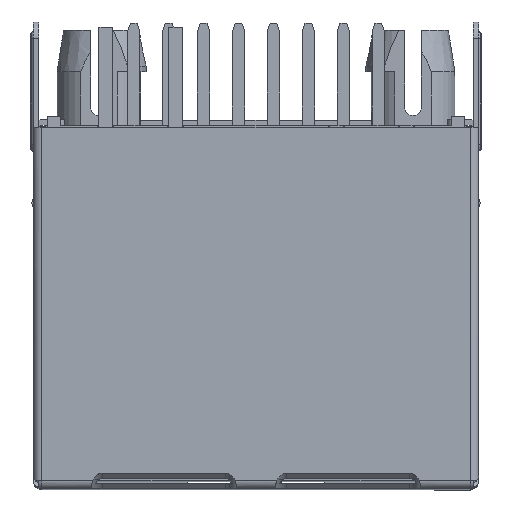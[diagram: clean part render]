
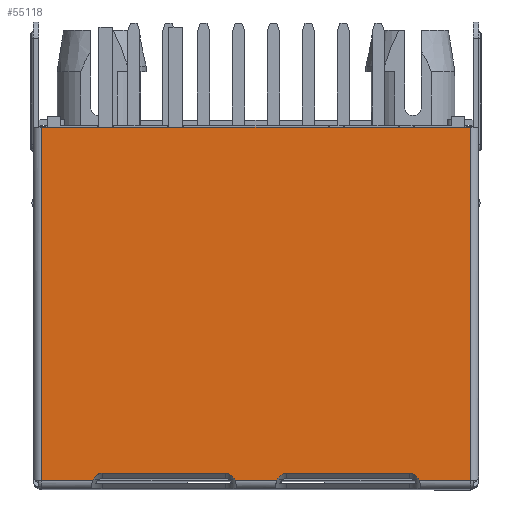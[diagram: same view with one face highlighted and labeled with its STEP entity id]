
A CAD part, top view. The second image highlights one B-rep face of the part: STEP entity #55118.
In plain terms, the highlighted planar face has unit normal (0, 0, 1).
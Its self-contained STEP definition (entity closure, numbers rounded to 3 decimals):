
#50427=CARTESIAN_POINT('',(0.761,-11.95,22.85));
#50429=CARTESIAN_POINT('',(0.761,-11.95,22.85));
#50430=CARTESIAN_POINT('',(0.795,-11.872,22.85));
#50431=CARTESIAN_POINT('',(0.886,-11.749,22.85));
#50432=CARTESIAN_POINT('',(1.015,-11.684,22.85));
#50433=CARTESIAN_POINT('',(1.1,-11.684,22.85));
#50459=CARTESIAN_POINT('',(5.939,-11.95,22.85));
#50460=CARTESIAN_POINT('',(5.905,-11.872,22.85));
#50461=CARTESIAN_POINT('',(5.814,-11.749,22.85));
#50462=CARTESIAN_POINT('',(5.685,-11.684,22.85));
#50463=CARTESIAN_POINT('',(5.6,-11.684,22.85));
#50465=DIRECTION('',(-1.,0.,0.));
#50466=VECTOR('',#50465,4.5);
#50467=CARTESIAN_POINT('',(5.6,-11.684,22.85));
#50468=LINE('',#50467,#50466);
#50469=CARTESIAN_POINT('',(-0.761,-11.95,22.85));
#50470=CARTESIAN_POINT('',(-0.795,-11.872,22.85));
#50471=CARTESIAN_POINT('',(-0.886,-11.749,22.85));
#50472=CARTESIAN_POINT('',(-1.015,-11.684,22.85));
#50473=CARTESIAN_POINT('',(-1.1,-11.684,22.85));
#50475=DIRECTION('',(-1.,0.,0.));
#50476=VECTOR('',#50475,4.5);
#50477=CARTESIAN_POINT('',(-1.1,-11.684,22.85));
#50478=LINE('',#50477,#50476);
#50479=CARTESIAN_POINT('',(-5.6,-11.684,22.85));
#50480=CARTESIAN_POINT('',(-5.685,-11.684,22.85));
#50481=CARTESIAN_POINT('',(-5.814,-11.749,22.85));
#50482=CARTESIAN_POINT('',(-5.905,-11.872,22.85));
#50483=CARTESIAN_POINT('',(-5.939,-11.95,22.85));
#50485=DIRECTION('',(1.,0.,0.));
#50486=VECTOR('',#50485,1.861);
#50487=CARTESIAN_POINT('',(5.939,-11.95,22.85));
#50488=LINE('',#50487,#50486);
#50667=DIRECTION('',(0.,1.,0.));
#50668=VECTOR('',#50667,12.85);
#50669=CARTESIAN_POINT('',(7.8,-11.95,22.85));
#50670=LINE('',#50669,#50668);
#50709=DIRECTION('',(-1.,0.,0.));
#50710=VECTOR('',#50709,15.6);
#50711=CARTESIAN_POINT('',(7.8,0.9,22.85));
#50712=LINE('',#50711,#50710);
#52146=DIRECTION('',(1.,0.,0.));
#52147=VECTOR('',#52146,1.522);
#52148=CARTESIAN_POINT('',(-0.761,-11.95,22.85));
#52149=LINE('',#52148,#52147);
#52158=DIRECTION('',(1.,0.,0.));
#52159=VECTOR('',#52158,1.861);
#52160=CARTESIAN_POINT('',(-7.8,-11.95,22.85));
#52161=LINE('',#52160,#52159);
#52207=DIRECTION('',(0.,-1.,0.));
#52208=VECTOR('',#52207,12.85);
#52209=CARTESIAN_POINT('',(-7.8,0.9,22.85));
#52210=LINE('',#52209,#52208);
#53076=VERTEX_POINT('',#50427);
#53077=VERTEX_POINT('',#50433);
#53102=CARTESIAN_POINT('',(5.6,-11.684,22.85));
#53103=VERTEX_POINT('',#53102);
#53104=CARTESIAN_POINT('',(5.939,-11.95,22.85));
#53105=CARTESIAN_POINT('',(7.8,-11.95,22.85));
#53106=VERTEX_POINT('',#53104);
#53107=VERTEX_POINT('',#53105);
#53108=CARTESIAN_POINT('',(-0.761,-11.95,22.85));
#53109=VERTEX_POINT('',#53108);
#53110=VERTEX_POINT('',#50473);
#53111=CARTESIAN_POINT('',(-5.6,-11.684,22.85));
#53112=VERTEX_POINT('',#53111);
#53113=VERTEX_POINT('',#50483);
#53114=CARTESIAN_POINT('',(-7.8,-11.95,22.85));
#53115=VERTEX_POINT('',#53114);
#53116=CARTESIAN_POINT('',(-7.8,0.9,22.85));
#53117=VERTEX_POINT('',#53116);
#53118=CARTESIAN_POINT('',(7.8,0.9,22.85));
#53119=VERTEX_POINT('',#53118);
#55089=CARTESIAN_POINT('',(0.,-5.525,22.85));
#55090=DIRECTION('',(0.,0.,1.));
#55091=DIRECTION('',(0.,-1.,0.));
#55092=AXIS2_PLACEMENT_3D('',#55089,#55090,#55091);
#55093=PLANE('',#55092);
#55095=ORIENTED_EDGE('',*,*,#55094,.F.);
#55097=ORIENTED_EDGE('',*,*,#55096,.T.);
#55098=ORIENTED_EDGE('',*,*,#55080,.T.);
#55099=ORIENTED_EDGE('',*,*,#55030,.F.);
#55101=ORIENTED_EDGE('',*,*,#55100,.F.);
#55103=ORIENTED_EDGE('',*,*,#55102,.T.);
#55105=ORIENTED_EDGE('',*,*,#55104,.T.);
#55107=ORIENTED_EDGE('',*,*,#55106,.T.);
#55109=ORIENTED_EDGE('',*,*,#55108,.F.);
#55111=ORIENTED_EDGE('',*,*,#55110,.F.);
#55113=ORIENTED_EDGE('',*,*,#55112,.F.);
#55115=ORIENTED_EDGE('',*,*,#55114,.F.);
#55116=EDGE_LOOP('',(#55095,#55097,#55098,#55099,#55101,#55103,#55105,#55107,
#55109,#55111,#55113,#55115));
#55117=FACE_OUTER_BOUND('',#55116,.F.);
#55118=ADVANCED_FACE('',(#55117),#55093,.T.);
#50434=B_SPLINE_CURVE_WITH_KNOTS('',3,(#50429,#50430,#50431,#50432,#50433),
.UNSPECIFIED.,.F.,.F.,(4,1,4),(0.,0.5,1.),.UNSPECIFIED.);
#50464=B_SPLINE_CURVE_WITH_KNOTS('',3,(#50459,#50460,#50461,#50462,#50463),
.UNSPECIFIED.,.F.,.F.,(4,1,4),(0.,0.5,1.),.UNSPECIFIED.);
#50474=B_SPLINE_CURVE_WITH_KNOTS('',3,(#50469,#50470,#50471,#50472,#50473),
.UNSPECIFIED.,.F.,.F.,(4,1,4),(0.,0.5,1.),.UNSPECIFIED.);
#50484=B_SPLINE_CURVE_WITH_KNOTS('',3,(#50479,#50480,#50481,#50482,#50483),
.UNSPECIFIED.,.F.,.F.,(4,1,4),(0.,0.5,1.),.UNSPECIFIED.);
#55030=EDGE_CURVE('',#53076,#53077,#50434,.T.);
#55080=EDGE_CURVE('',#53103,#53077,#50468,.T.);
#55094=EDGE_CURVE('',#53106,#53107,#50488,.T.);
#55096=EDGE_CURVE('',#53106,#53103,#50464,.T.);
#55100=EDGE_CURVE('',#53109,#53076,#52149,.T.);
#55102=EDGE_CURVE('',#53109,#53110,#50474,.T.);
#55104=EDGE_CURVE('',#53110,#53112,#50478,.T.);
#55106=EDGE_CURVE('',#53112,#53113,#50484,.T.);
#55108=EDGE_CURVE('',#53115,#53113,#52161,.T.);
#55110=EDGE_CURVE('',#53117,#53115,#52210,.T.);
#55112=EDGE_CURVE('',#53119,#53117,#50712,.T.);
#55114=EDGE_CURVE('',#53107,#53119,#50670,.T.);
